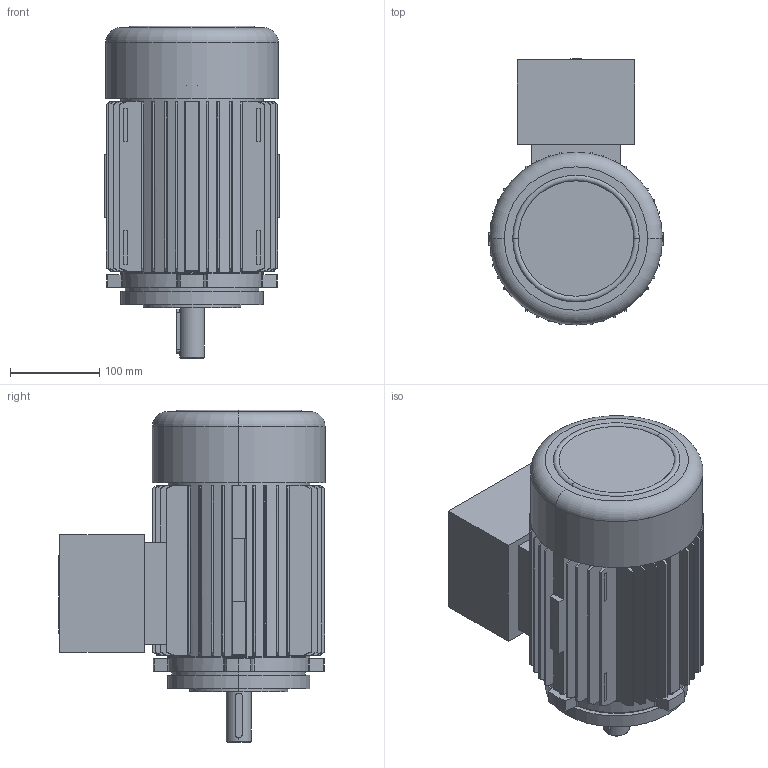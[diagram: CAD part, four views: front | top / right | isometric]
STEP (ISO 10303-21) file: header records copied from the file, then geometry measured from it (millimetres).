
FILE_DESCRIPTION (( 'STEP AP214' ), '1' );
FILE_NAME ('20.18393-C 5AT 100 B14_F130 Exd.STEP', '2018-05-08T07:42:29', ( '' ), ( '' ), 'SwSTEP 2.0', 'SolidWorks 2017', '' );
FILE_SCHEMA (( 'AUTOMOTIVE_DESIGN' ));
Length unit declared in the file: millimetre
Products named in the file (1): 20.18393-C 5AT 100 B14_F130 Exd
Bounding box: 197.5 x 299 x 372.99 mm (x, y, z)
Volume: 4816815.1 mm3; surface area: 829961.7 mm2
Topology: 3 solids, 3 shells, 683 faces, 1753 edges, 1140 vertices
Faces by surface type: plane 375, cylinder 157, cone 143, torus 8
Entity records: 26571 total; most frequent: CARTESIAN_POINT 4281, DIRECTION 3459, ORIENTED_EDGE 3458, EDGE_CURVE 1729, AXIS2_PLACEMENT_3D 1270, VERTEX_POINT 1140, LINE 919, VECTOR 919
